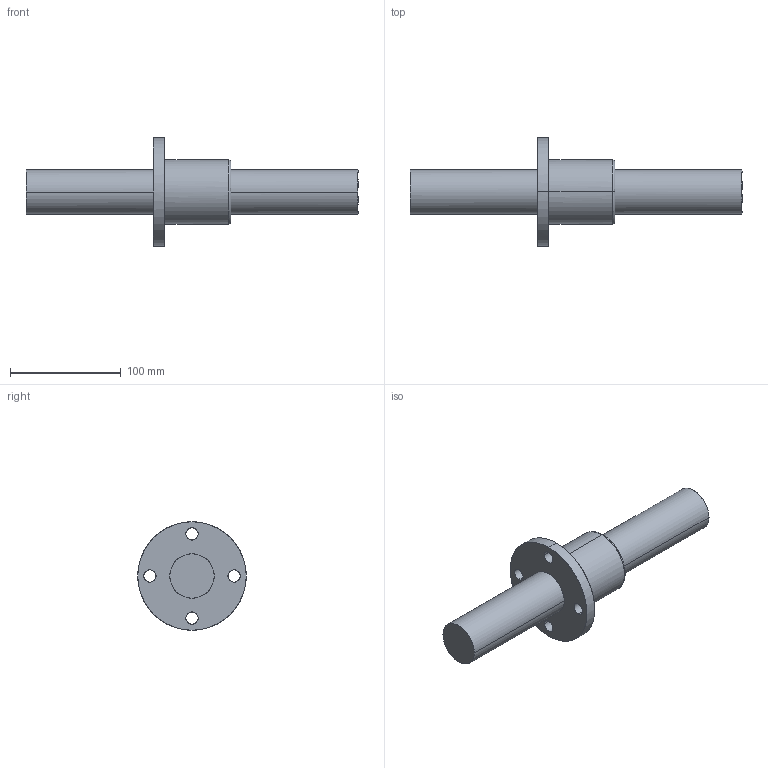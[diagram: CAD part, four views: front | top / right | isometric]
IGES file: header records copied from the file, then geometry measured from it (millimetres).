
Global section: file name: No Iges File Name specified; native system: AutoDesk Inventor R10; preprocessor: AutoDesk Inventor Iges Exporter R10; author: No Author specified; organization: No Organization specified; date: 20101224.144845; units: millimetre
Bounding box: 300 x 98 x 98 mm (x, y, z)
Surface area: 76017.9 mm2 (no closed solid volume)
Topology: 0 solids, 0 shells, 25 faces, 184 edges, 184 vertices
Faces by surface type: bspline 25
